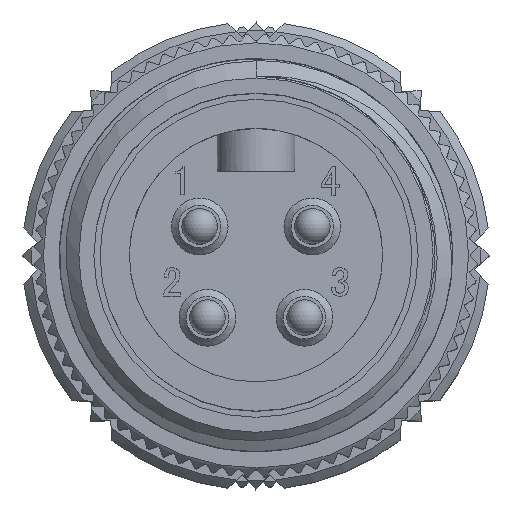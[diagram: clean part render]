
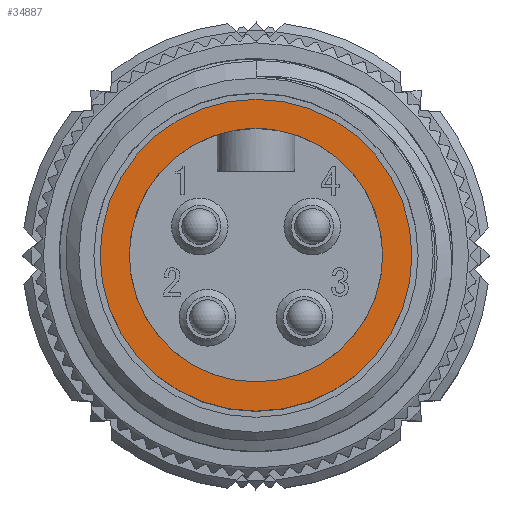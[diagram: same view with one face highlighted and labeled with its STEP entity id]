
A CAD part, top view. The second image highlights one B-rep face of the part: STEP entity #34887.
In plain terms, the highlighted planar face has unit normal (0, 0, 1).
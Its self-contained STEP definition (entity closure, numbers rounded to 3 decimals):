
#1089 = EDGE_CURVE ( 'NONE', #29405, #29405, #25313, .T. ) ;
#2368 = EDGE_LOOP ( 'NONE', ( #10333 ) ) ;
#2609 = VERTEX_POINT ( 'NONE', #21066 ) ;
#2837 = DIRECTION ( 'NONE',  ( 0., 0., -1. ) ) ;
#4906 = CARTESIAN_POINT ( 'NONE',  ( 0., 0., -1.5 ) ) ;
#5168 = DIRECTION ( 'NONE',  ( 0., 0., 1. ) ) ;
#7721 = FACE_OUTER_BOUND ( 'NONE', #2368, .T. ) ;
#8785 = CARTESIAN_POINT ( 'NONE',  ( 0., 8.8, -1.5 ) ) ;
#10333 = ORIENTED_EDGE ( 'NONE', *, *, #23751, .T. ) ;
#13269 = CARTESIAN_POINT ( 'NONE',  ( 0., 7.15, -1.5 ) ) ;
#14609 = AXIS2_PLACEMENT_3D ( 'NONE', #16645, #22770, #20106 ) ;
#15148 = ORIENTED_EDGE ( 'NONE', *, *, #1089, .F. ) ;
#16122 = EDGE_LOOP ( 'NONE', ( #15148 ) ) ;
#16645 = CARTESIAN_POINT ( 'NONE',  ( 0., 0., -1.5 ) ) ;
#20106 = DIRECTION ( 'NONE',  ( 1., 0., 0. ) ) ;
#21066 = CARTESIAN_POINT ( 'NONE',  ( 8.8, 0., -1.5 ) ) ;
#21493 = CIRCLE ( 'NONE', #22158, 8.8 ) ;
#22158 = AXIS2_PLACEMENT_3D ( 'NONE', #4906, #5168, #32248 ) ;
#22770 = DIRECTION ( 'NONE',  ( 0., 0., 1. ) ) ;
#23751 = EDGE_CURVE ( 'NONE', #2609, #2609, #21493, .T. ) ;
#25313 = CIRCLE ( 'NONE', #14609, 7.15 ) ;
#26642 = FACE_BOUND ( 'NONE', #16122, .T. ) ;
#29405 = VERTEX_POINT ( 'NONE', #13269 ) ;
#32248 = DIRECTION ( 'NONE',  ( 1., 0., 0. ) ) ;
#34887 = ADVANCED_FACE ( 'NONE', ( #26642, #7721 ), #38808, .F. ) ;
#37086 = AXIS2_PLACEMENT_3D ( 'NONE', #8785, #2837, #39071 ) ;
#38808 = PLANE ( 'NONE',  #37086 ) ;
#39071 = DIRECTION ( 'NONE',  ( -1., 0., 0. ) ) ;
